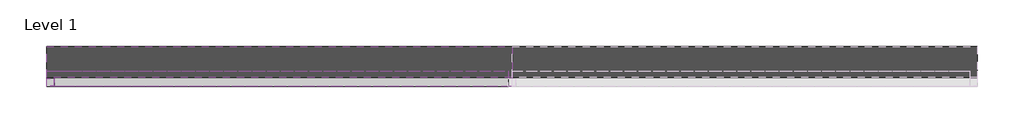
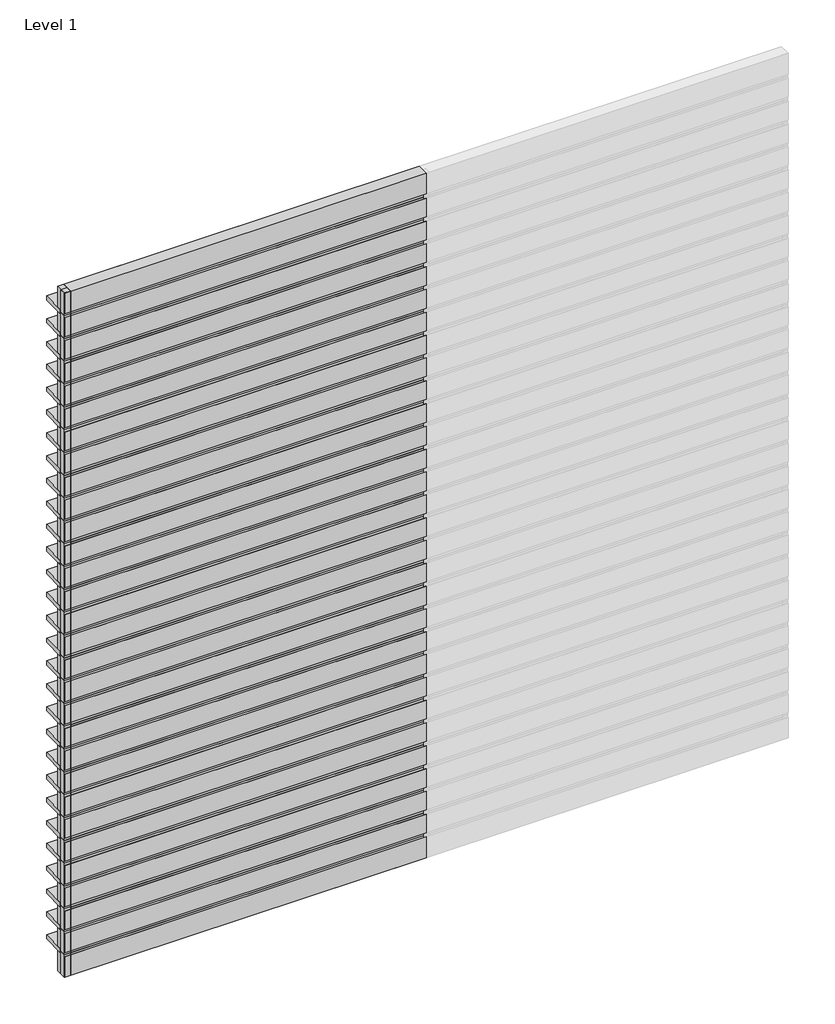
# One storey, part 1 of 2: 74 members, 60 plates.
"""IFC4 building model written with IfcOpenShell, lengths in millimetres."""

from ifc_helpers import new_model, si_unit, origin, place, context, project, spatial, transform, mapped, element, save
from components import rectangular_mullion_20bdfb12, rectangular_mullion_a06afc58, empty_system_panel_empty_0b604c90, empty_system_panel_empty_68612530, empty_system_panel_empty_34a2d59f

model = new_model("IFC4")

# Units and contexts
model_context = context("Model", 3, world=origin())
ifc_project = project(units=[si_unit("LENGTHUNIT", "METRE", prefix="MILLI")], contexts=[model_context])

# Site, building, storey
site = spatial("IfcSite", under=ifc_project)
building = spatial("IfcBuilding", under=site)
storey = spatial("IfcBuildingStorey", under=building, Name="Level 1", Elevation=0.0)

# Members
placement = place(None, origin())
rectangular_mullion_shape = rectangular_mullion_20bdfb12(model_context)
element("IfcMember", 1, ObjectType="Rectangular Mullion : RSen_21_CWM_blade - cubic 200 - 0°_gen_duco projects", at=placement, inside=storey, context=model_context, shape_type="MappedRepresentation", body=[
    mapped(rectangular_mullion_shape, transform((3000.0, 3000.0, 200.0), x_axis=(0.0, 0.0, 1.0), y_axis=(0.0, 1.0, 0.0), z_axis=(-1.0, 0.0, 0.0))),
])
element("IfcMember", 2, ObjectType="Rectangular Mullion : RSen_21_CWM_blade - cubic 200 - 0°_gen_duco projects", at=placement, inside=storey, context=model_context, shape_type="MappedRepresentation", body=[
    mapped(rectangular_mullion_shape, transform((3000.0, 3000.0, 400.0), x_axis=(0.0, 0.0, 1.0), y_axis=(0.0, 1.0, 0.0), z_axis=(-1.0, 0.0, 0.0))),
])
element("IfcMember", 3, ObjectType="Rectangular Mullion : RSen_21_CWM_blade - cubic 200 - 0°_gen_duco projects", at=placement, inside=storey, context=model_context, shape_type="MappedRepresentation", body=[
    mapped(rectangular_mullion_shape, transform((3000.0, 3000.0, 600.0), x_axis=(0.0, 0.0, 1.0), y_axis=(0.0, 1.0, 0.0), z_axis=(-1.0, 0.0, 0.0))),
])
element("IfcMember", 4, ObjectType="Rectangular Mullion : RSen_21_CWM_blade - cubic 200 - 0°_gen_duco projects", at=placement, inside=storey, context=model_context, shape_type="MappedRepresentation", body=[
    mapped(rectangular_mullion_shape, transform((3000.0, 3000.0, 800.0), x_axis=(0.0, 0.0, 1.0), y_axis=(0.0, 1.0, 0.0), z_axis=(-1.0, 0.0, 0.0))),
])
element("IfcMember", 5, ObjectType="Rectangular Mullion : RSen_21_CWM_blade - cubic 200 - 0°_gen_duco projects", at=placement, inside=storey, context=model_context, shape_type="MappedRepresentation", body=[
    mapped(rectangular_mullion_shape, transform((3000.0, 3000.0, 1000.0), x_axis=(0.0, 0.0, 1.0), y_axis=(0.0, 1.0, 0.0), z_axis=(-1.0, 0.0, 0.0))),
])
element("IfcMember", 6, ObjectType="Rectangular Mullion : RSen_21_CWM_blade - cubic 200 - 0°_gen_duco projects", at=placement, inside=storey, context=model_context, shape_type="MappedRepresentation", body=[
    mapped(rectangular_mullion_shape, transform((3000.0, 3000.0, 1200.0), x_axis=(0.0, 0.0, 1.0), y_axis=(0.0, 1.0, 0.0), z_axis=(-1.0, 0.0, 0.0))),
])
element("IfcMember", 7, ObjectType="Rectangular Mullion : RSen_21_CWM_blade - cubic 200 - 0°_gen_duco projects", at=placement, inside=storey, context=model_context, shape_type="MappedRepresentation", body=[
    mapped(rectangular_mullion_shape, transform((3000.0, 3000.0, 1400.0), x_axis=(0.0, 0.0, 1.0), y_axis=(0.0, 1.0, 0.0), z_axis=(-1.0, 0.0, 0.0))),
])
element("IfcMember", 8, ObjectType="Rectangular Mullion : RSen_21_CWM_blade - cubic 200 - 0°_gen_duco projects", at=placement, inside=storey, context=model_context, shape_type="MappedRepresentation", body=[
    mapped(rectangular_mullion_shape, transform((3000.0, 3000.0, 1600.0), x_axis=(0.0, 0.0, 1.0), y_axis=(0.0, 1.0, 0.0), z_axis=(-1.0, 0.0, 0.0))),
])
element("IfcMember", 9, ObjectType="Rectangular Mullion : RSen_21_CWM_blade - cubic 200 - 0°_gen_duco projects", at=placement, inside=storey, context=model_context, shape_type="MappedRepresentation", body=[
    mapped(rectangular_mullion_shape, transform((3000.0, 3000.0, 1800.0), x_axis=(0.0, 0.0, 1.0), y_axis=(0.0, 1.0, 0.0), z_axis=(-1.0, 0.0, 0.0))),
])
element("IfcMember", 10, ObjectType="Rectangular Mullion : RSen_21_CWM_blade - cubic 200 - 0°_gen_duco projects", at=placement, inside=storey, context=model_context, shape_type="MappedRepresentation", body=[
    mapped(rectangular_mullion_shape, transform((3000.0, 3000.0, 2000.0), x_axis=(0.0, 0.0, 1.0), y_axis=(0.0, 1.0, 0.0), z_axis=(-1.0, 0.0, 0.0))),
])
element("IfcMember", 11, ObjectType="Rectangular Mullion : RSen_21_CWM_blade - cubic 200 - 0°_gen_duco projects", at=placement, inside=storey, context=model_context, shape_type="MappedRepresentation", body=[
    mapped(rectangular_mullion_shape, transform((3000.0, 3000.0, 2200.0), x_axis=(0.0, 0.0, 1.0), y_axis=(0.0, 1.0, 0.0), z_axis=(-1.0, 0.0, 0.0))),
])
element("IfcMember", 12, ObjectType="Rectangular Mullion : RSen_21_CWM_blade - cubic 200 - 0°_gen_duco projects", at=placement, inside=storey, context=model_context, shape_type="MappedRepresentation", body=[
    mapped(rectangular_mullion_shape, transform((3000.0, 3000.0, 2400.0), x_axis=(0.0, 0.0, 1.0), y_axis=(0.0, 1.0, 0.0), z_axis=(-1.0, 0.0, 0.0))),
])
element("IfcMember", 13, ObjectType="Rectangular Mullion : RSen_21_CWM_blade - cubic 200 - 0°_gen_duco projects", at=placement, inside=storey, context=model_context, shape_type="MappedRepresentation", body=[
    mapped(rectangular_mullion_shape, transform((3000.0, 3000.0, 2600.0), x_axis=(0.0, 0.0, 1.0), y_axis=(0.0, 1.0, 0.0), z_axis=(-1.0, 0.0, 0.0))),
])
element("IfcMember", 14, ObjectType="Rectangular Mullion : RSen_21_CWM_blade - cubic 200 - 0°_gen_duco projects", at=placement, inside=storey, context=model_context, shape_type="MappedRepresentation", body=[
    mapped(rectangular_mullion_shape, transform((3000.0, 3000.0, 2800.0), x_axis=(0.0, 0.0, 1.0), y_axis=(0.0, 1.0, 0.0), z_axis=(-1.0, 0.0, 0.0))),
])
element("IfcMember", 15, ObjectType="Rectangular Mullion : RSen_21_CWM_blade - cubic 200 - 0°_gen_duco projects", at=placement, inside=storey, context=model_context, shape_type="MappedRepresentation", body=[
    mapped(rectangular_mullion_shape, transform((3000.0, 3000.0, 3000.0), x_axis=(0.0, 0.0, 1.0), y_axis=(0.0, 1.0, 0.0), z_axis=(-1.0, 0.0, 0.0))),
])
element("IfcMember", 16, ObjectType="Rectangular Mullion : RSen_21_CWM_blade - cubic 200 - 0°_gen_duco projects", at=placement, inside=storey, context=model_context, shape_type="MappedRepresentation", body=[
    mapped(rectangular_mullion_shape, transform((0.0, 3000.0, 200.0), x_axis=(0.0, 0.0, 1.0), y_axis=(0.0, 1.0, 0.0), z_axis=(-1.0, 0.0, 0.0))),
])
element("IfcMember", 17, ObjectType="Rectangular Mullion : RSen_21_CWM_blade - cubic 200 - 0°_gen_duco projects", at=placement, inside=storey, context=model_context, shape_type="MappedRepresentation", body=[
    mapped(rectangular_mullion_shape, transform((0.0, 3000.0, 400.0), x_axis=(0.0, 0.0, 1.0), y_axis=(0.0, 1.0, 0.0), z_axis=(-1.0, 0.0, 0.0))),
])
element("IfcMember", 18, ObjectType="Rectangular Mullion : RSen_21_CWM_blade - cubic 200 - 0°_gen_duco projects", at=placement, inside=storey, context=model_context, shape_type="MappedRepresentation", body=[
    mapped(rectangular_mullion_shape, transform((0.0, 3000.0, 600.0), x_axis=(0.0, 0.0, 1.0), y_axis=(0.0, 1.0, 0.0), z_axis=(-1.0, 0.0, 0.0))),
])
element("IfcMember", 19, ObjectType="Rectangular Mullion : RSen_21_CWM_blade - cubic 200 - 0°_gen_duco projects", at=placement, inside=storey, context=model_context, shape_type="MappedRepresentation", body=[
    mapped(rectangular_mullion_shape, transform((0.0, 3000.0, 800.0), x_axis=(0.0, 0.0, 1.0), y_axis=(0.0, 1.0, 0.0), z_axis=(-1.0, 0.0, 0.0))),
])
element("IfcMember", 20, ObjectType="Rectangular Mullion : RSen_21_CWM_blade - cubic 200 - 0°_gen_duco projects", at=placement, inside=storey, context=model_context, shape_type="MappedRepresentation", body=[
    mapped(rectangular_mullion_shape, transform((0.0, 3000.0, 1000.0), x_axis=(0.0, 0.0, 1.0), y_axis=(0.0, 1.0, 0.0), z_axis=(-1.0, 0.0, 0.0))),
])
element("IfcMember", 21, ObjectType="Rectangular Mullion : RSen_21_CWM_blade - cubic 200 - 0°_gen_duco projects", at=placement, inside=storey, context=model_context, shape_type="MappedRepresentation", body=[
    mapped(rectangular_mullion_shape, transform((0.0, 3000.0, 1200.0), x_axis=(0.0, 0.0, 1.0), y_axis=(0.0, 1.0, 0.0), z_axis=(-1.0, 0.0, 0.0))),
])
element("IfcMember", 22, ObjectType="Rectangular Mullion : RSen_21_CWM_blade - cubic 200 - 0°_gen_duco projects", at=placement, inside=storey, context=model_context, shape_type="MappedRepresentation", body=[
    mapped(rectangular_mullion_shape, transform((0.0, 3000.0, 1400.0), x_axis=(0.0, 0.0, 1.0), y_axis=(0.0, 1.0, 0.0), z_axis=(-1.0, 0.0, 0.0))),
])
element("IfcMember", 23, ObjectType="Rectangular Mullion : RSen_21_CWM_blade - cubic 200 - 0°_gen_duco projects", at=placement, inside=storey, context=model_context, shape_type="MappedRepresentation", body=[
    mapped(rectangular_mullion_shape, transform((0.0, 3000.0, 1600.0), x_axis=(0.0, 0.0, 1.0), y_axis=(0.0, 1.0, 0.0), z_axis=(-1.0, 0.0, 0.0))),
])
element("IfcMember", 24, ObjectType="Rectangular Mullion : RSen_21_CWM_blade - cubic 200 - 0°_gen_duco projects", at=placement, inside=storey, context=model_context, shape_type="MappedRepresentation", body=[
    mapped(rectangular_mullion_shape, transform((0.0, 3000.0, 1800.0), x_axis=(0.0, 0.0, 1.0), y_axis=(0.0, 1.0, 0.0), z_axis=(-1.0, 0.0, 0.0))),
])
element("IfcMember", 25, ObjectType="Rectangular Mullion : RSen_21_CWM_blade - cubic 200 - 0°_gen_duco projects", at=placement, inside=storey, context=model_context, shape_type="MappedRepresentation", body=[
    mapped(rectangular_mullion_shape, transform((0.0, 3000.0, 2000.0), x_axis=(0.0, 0.0, 1.0), y_axis=(0.0, 1.0, 0.0), z_axis=(-1.0, 0.0, 0.0))),
])
element("IfcMember", 26, ObjectType="Rectangular Mullion : RSen_21_CWM_blade - cubic 200 - 0°_gen_duco projects", at=placement, inside=storey, context=model_context, shape_type="MappedRepresentation", body=[
    mapped(rectangular_mullion_shape, transform((0.0, 3000.0, 2200.0), x_axis=(0.0, 0.0, 1.0), y_axis=(0.0, 1.0, 0.0), z_axis=(-1.0, 0.0, 0.0))),
])
element("IfcMember", 27, ObjectType="Rectangular Mullion : RSen_21_CWM_blade - cubic 200 - 0°_gen_duco projects", at=placement, inside=storey, context=model_context, shape_type="MappedRepresentation", body=[
    mapped(rectangular_mullion_shape, transform((0.0, 3000.0, 2400.0), x_axis=(0.0, 0.0, 1.0), y_axis=(0.0, 1.0, 0.0), z_axis=(-1.0, 0.0, 0.0))),
])
element("IfcMember", 28, ObjectType="Rectangular Mullion : RSen_21_CWM_blade - cubic 200 - 0°_gen_duco projects", at=placement, inside=storey, context=model_context, shape_type="MappedRepresentation", body=[
    mapped(rectangular_mullion_shape, transform((0.0, 3000.0, 2600.0), x_axis=(0.0, 0.0, 1.0), y_axis=(0.0, 1.0, 0.0), z_axis=(-1.0, 0.0, 0.0))),
])
element("IfcMember", 29, ObjectType="Rectangular Mullion : RSen_21_CWM_blade - cubic 200 - 0°_gen_duco projects", at=placement, inside=storey, context=model_context, shape_type="MappedRepresentation", body=[
    mapped(rectangular_mullion_shape, transform((0.0, 3000.0, 2800.0), x_axis=(0.0, 0.0, 1.0), y_axis=(0.0, 1.0, 0.0), z_axis=(-1.0, 0.0, 0.0))),
])
element("IfcMember", 30, ObjectType="Rectangular Mullion : RSen_21_CWM_blade - cubic 200 - 0°_gen_duco projects", at=placement, inside=storey, context=model_context, shape_type="MappedRepresentation", body=[
    mapped(rectangular_mullion_shape, transform((0.0, 3000.0, 3000.0), x_axis=(0.0, 0.0, 1.0), y_axis=(0.0, 1.0, 0.0), z_axis=(-1.0, 0.0, 0.0))),
])
element("IfcMember", 31, ObjectType="Rectangular Mullion : RSen_21_CWM_blade - cubic 200 - 0°_gen_duco projects", at=placement, inside=storey, context=model_context, shape_type="MappedRepresentation", body=[
    mapped(rectangular_mullion_shape, transform((0.0, 3000.0, 3200.0), x_axis=(0.0, 0.0, 1.0), y_axis=(0.0, 1.0, 0.0), z_axis=(-1.0, 0.0, 0.0))),
])
element("IfcMember", 32, ObjectType="Rectangular Mullion : RSen_21_CWM_blade - cubic 200 - 0°_gen_duco projects", at=placement, inside=storey, context=model_context, shape_type="MappedRepresentation", body=[
    mapped(rectangular_mullion_shape, transform((0.0, 3000.0, 3400.0), x_axis=(0.0, 0.0, 1.0), y_axis=(0.0, 1.0, 0.0), z_axis=(-1.0, 0.0, 0.0))),
])
element("IfcMember", 33, ObjectType="Rectangular Mullion : RSen_21_CWM_blade - cubic 200 - 0°_gen_duco projects", at=placement, inside=storey, context=model_context, shape_type="MappedRepresentation", body=[
    mapped(rectangular_mullion_shape, transform((0.0, 3000.0, 3600.0), x_axis=(0.0, 0.0, 1.0), y_axis=(0.0, 1.0, 0.0), z_axis=(-1.0, 0.0, 0.0))),
])
element("IfcMember", 34, ObjectType="Rectangular Mullion : RSen_21_CWM_blade - cubic 200 - 0°_gen_duco projects", at=placement, inside=storey, context=model_context, shape_type="MappedRepresentation", body=[
    mapped(rectangular_mullion_shape, transform((0.0, 3000.0, 3800.0), x_axis=(0.0, 0.0, 1.0), y_axis=(0.0, 1.0, 0.0), z_axis=(-1.0, 0.0, 0.0))),
])
element("IfcMember", 35, ObjectType="Rectangular Mullion : RSen_21_CWM_blade - cubic 200 - 0°_gen_duco projects", at=placement, inside=storey, context=model_context, shape_type="MappedRepresentation", body=[
    mapped(rectangular_mullion_shape, transform((0.0, 3000.0, 4000.0), x_axis=(0.0, 0.0, 1.0), y_axis=(0.0, 1.0, 0.0), z_axis=(-1.0, 0.0, 0.0))),
])
element("IfcMember", 36, ObjectType="Rectangular Mullion : RSen_21_CWM_blade - cubic 200 - 0°_gen_duco projects", at=placement, inside=storey, context=model_context, shape_type="MappedRepresentation", body=[
    mapped(rectangular_mullion_shape, transform((0.0, 3000.0, 4200.0), x_axis=(0.0, 0.0, 1.0), y_axis=(0.0, 1.0, 0.0), z_axis=(-1.0, 0.0, 0.0))),
])
element("IfcMember", 37, ObjectType="Rectangular Mullion : RSen_21_CWM_blade - cubic 200 - 0°_gen_duco projects", at=placement, inside=storey, context=model_context, shape_type="MappedRepresentation", body=[
    mapped(rectangular_mullion_shape, transform((0.0, 3000.0, 4400.0), x_axis=(0.0, 0.0, 1.0), y_axis=(0.0, 1.0, 0.0), z_axis=(-1.0, 0.0, 0.0))),
])
element("IfcMember", 38, ObjectType="Rectangular Mullion : RSen_21_CWM_blade - cubic 200 - 0°_gen_duco projects", at=placement, inside=storey, context=model_context, shape_type="MappedRepresentation", body=[
    mapped(rectangular_mullion_shape, transform((0.0, 3000.0, 4600.0), x_axis=(0.0, 0.0, 1.0), y_axis=(0.0, 1.0, 0.0), z_axis=(-1.0, 0.0, 0.0))),
])
element("IfcMember", 39, ObjectType="Rectangular Mullion : RSen_21_CWM_blade - cubic 200 - 0°_gen_duco projects", at=placement, inside=storey, context=model_context, shape_type="MappedRepresentation", body=[
    mapped(rectangular_mullion_shape, transform((0.0, 3000.0, 4800.0), x_axis=(0.0, 0.0, 1.0), y_axis=(0.0, 1.0, 0.0), z_axis=(-1.0, 0.0, 0.0))),
])
element("IfcMember", 40, ObjectType="Rectangular Mullion : RSen_21_CWM_blade - cubic 200 - 0°_gen_duco projects", at=placement, inside=storey, context=model_context, shape_type="MappedRepresentation", body=[
    mapped(rectangular_mullion_shape, transform((0.0, 3000.0, 5000.0), x_axis=(0.0, 0.0, 1.0), y_axis=(0.0, 1.0, 0.0), z_axis=(-1.0, 0.0, 0.0))),
])
element("IfcMember", 41, ObjectType="Rectangular Mullion : RSen_21_CWM_blade - cubic 200 - 0°_gen_duco projects", at=placement, inside=storey, context=model_context, shape_type="MappedRepresentation", body=[
    mapped(rectangular_mullion_shape, transform((0.0, 3000.0, 5200.0), x_axis=(0.0, 0.0, 1.0), y_axis=(0.0, 1.0, 0.0), z_axis=(-1.0, 0.0, 0.0))),
])
element("IfcMember", 42, ObjectType="Rectangular Mullion : RSen_21_CWM_blade - cubic 200 - 0°_gen_duco projects", at=placement, inside=storey, context=model_context, shape_type="MappedRepresentation", body=[
    mapped(rectangular_mullion_shape, transform((0.0, 3000.0, 5400.0), x_axis=(0.0, 0.0, 1.0), y_axis=(0.0, 1.0, 0.0), z_axis=(-1.0, 0.0, 0.0))),
])
element("IfcMember", 43, ObjectType="Rectangular Mullion : RSen_21_CWM_blade - cubic 200 - 0°_gen_duco projects", at=placement, inside=storey, context=model_context, shape_type="MappedRepresentation", body=[
    mapped(rectangular_mullion_shape, transform((0.0, 3000.0, 5600.0), x_axis=(0.0, 0.0, 1.0), y_axis=(0.0, 1.0, 0.0), z_axis=(-1.0, 0.0, 0.0))),
])
element("IfcMember", 44, ObjectType="Rectangular Mullion : RSen_21_CWM_blade - cubic 200 - 0°_gen_duco projects", at=placement, inside=storey, context=model_context, shape_type="MappedRepresentation", body=[
    mapped(rectangular_mullion_shape, transform((0.0, 3000.0, 5800.0), x_axis=(0.0, 0.0, 1.0), y_axis=(0.0, 1.0, 0.0), z_axis=(-1.0, 0.0, 0.0))),
])
rectangular_mullion_2_shape = rectangular_mullion_a06afc58(model_context)
element("IfcMember", 45, ObjectType="Rectangular Mullion : RSen_21_CWM_support profile 50x50 - left_gen_duco projects", at=placement, inside=storey, context=model_context, shape_type="MappedRepresentation", body=[
    mapped(rectangular_mullion_2_shape, transform((0.0, 3000.0, 0.0), x_axis=(-1.0, 0.0, 0.0), y_axis=(0.0, 1.0, 0.0), z_axis=(0.0, 0.0, -1.0))),
])
element("IfcMember", 46, ObjectType="Rectangular Mullion : RSen_21_CWM_support profile 50x50 - left_gen_duco projects", at=placement, inside=storey, context=model_context, shape_type="MappedRepresentation", body=[
    mapped(rectangular_mullion_2_shape, transform((0.0, 3000.0, 200.0), x_axis=(-1.0, 0.0, 0.0), y_axis=(0.0, 1.0, 0.0), z_axis=(0.0, 0.0, -1.0))),
])
element("IfcMember", 47, ObjectType="Rectangular Mullion : RSen_21_CWM_support profile 50x50 - left_gen_duco projects", at=placement, inside=storey, context=model_context, shape_type="MappedRepresentation", body=[
    mapped(rectangular_mullion_2_shape, transform((0.0, 3000.0, 400.0), x_axis=(-1.0, 0.0, 0.0), y_axis=(0.0, 1.0, 0.0), z_axis=(0.0, 0.0, -1.0))),
])
element("IfcMember", 48, ObjectType="Rectangular Mullion : RSen_21_CWM_support profile 50x50 - left_gen_duco projects", at=placement, inside=storey, context=model_context, shape_type="MappedRepresentation", body=[
    mapped(rectangular_mullion_2_shape, transform((0.0, 3000.0, 600.0), x_axis=(-1.0, 0.0, 0.0), y_axis=(0.0, 1.0, 0.0), z_axis=(0.0, 0.0, -1.0))),
])
element("IfcMember", 49, ObjectType="Rectangular Mullion : RSen_21_CWM_support profile 50x50 - left_gen_duco projects", at=placement, inside=storey, context=model_context, shape_type="MappedRepresentation", body=[
    mapped(rectangular_mullion_2_shape, transform((0.0, 3000.0, 800.0), x_axis=(-1.0, 0.0, 0.0), y_axis=(0.0, 1.0, 0.0), z_axis=(0.0, 0.0, -1.0))),
])
element("IfcMember", 50, ObjectType="Rectangular Mullion : RSen_21_CWM_support profile 50x50 - left_gen_duco projects", at=placement, inside=storey, context=model_context, shape_type="MappedRepresentation", body=[
    mapped(rectangular_mullion_2_shape, transform((0.0, 3000.0, 1000.0), x_axis=(-1.0, 0.0, 0.0), y_axis=(0.0, 1.0, 0.0), z_axis=(0.0, 0.0, -1.0))),
])
element("IfcMember", 51, ObjectType="Rectangular Mullion : RSen_21_CWM_support profile 50x50 - left_gen_duco projects", at=placement, inside=storey, context=model_context, shape_type="MappedRepresentation", body=[
    mapped(rectangular_mullion_2_shape, transform((0.0, 3000.0, 1200.0), x_axis=(-1.0, 0.0, 0.0), y_axis=(0.0, 1.0, 0.0), z_axis=(0.0, 0.0, -1.0))),
])
element("IfcMember", 52, ObjectType="Rectangular Mullion : RSen_21_CWM_support profile 50x50 - left_gen_duco projects", at=placement, inside=storey, context=model_context, shape_type="MappedRepresentation", body=[
    mapped(rectangular_mullion_2_shape, transform((0.0, 3000.0, 1400.0), x_axis=(-1.0, 0.0, 0.0), y_axis=(0.0, 1.0, 0.0), z_axis=(0.0, 0.0, -1.0))),
])
element("IfcMember", 53, ObjectType="Rectangular Mullion : RSen_21_CWM_support profile 50x50 - left_gen_duco projects", at=placement, inside=storey, context=model_context, shape_type="MappedRepresentation", body=[
    mapped(rectangular_mullion_2_shape, transform((0.0, 3000.0, 1600.0), x_axis=(-1.0, 0.0, 0.0), y_axis=(0.0, 1.0, 0.0), z_axis=(0.0, 0.0, -1.0))),
])
element("IfcMember", 54, ObjectType="Rectangular Mullion : RSen_21_CWM_support profile 50x50 - left_gen_duco projects", at=placement, inside=storey, context=model_context, shape_type="MappedRepresentation", body=[
    mapped(rectangular_mullion_2_shape, transform((0.0, 3000.0, 1800.0), x_axis=(-1.0, 0.0, 0.0), y_axis=(0.0, 1.0, 0.0), z_axis=(0.0, 0.0, -1.0))),
])
element("IfcMember", 55, ObjectType="Rectangular Mullion : RSen_21_CWM_support profile 50x50 - left_gen_duco projects", at=placement, inside=storey, context=model_context, shape_type="MappedRepresentation", body=[
    mapped(rectangular_mullion_2_shape, transform((0.0, 3000.0, 2000.0), x_axis=(-1.0, 0.0, 0.0), y_axis=(0.0, 1.0, 0.0), z_axis=(0.0, 0.0, -1.0))),
])
element("IfcMember", 56, ObjectType="Rectangular Mullion : RSen_21_CWM_support profile 50x50 - left_gen_duco projects", at=placement, inside=storey, context=model_context, shape_type="MappedRepresentation", body=[
    mapped(rectangular_mullion_2_shape, transform((0.0, 3000.0, 2200.0), x_axis=(-1.0, 0.0, 0.0), y_axis=(0.0, 1.0, 0.0), z_axis=(0.0, 0.0, -1.0))),
])
element("IfcMember", 57, ObjectType="Rectangular Mullion : RSen_21_CWM_support profile 50x50 - left_gen_duco projects", at=placement, inside=storey, context=model_context, shape_type="MappedRepresentation", body=[
    mapped(rectangular_mullion_2_shape, transform((0.0, 3000.0, 2400.0), x_axis=(-1.0, 0.0, 0.0), y_axis=(0.0, 1.0, 0.0), z_axis=(0.0, 0.0, -1.0))),
])
element("IfcMember", 58, ObjectType="Rectangular Mullion : RSen_21_CWM_support profile 50x50 - left_gen_duco projects", at=placement, inside=storey, context=model_context, shape_type="MappedRepresentation", body=[
    mapped(rectangular_mullion_2_shape, transform((0.0, 3000.0, 2600.0), x_axis=(-1.0, 0.0, 0.0), y_axis=(0.0, 1.0, 0.0), z_axis=(0.0, 0.0, -1.0))),
])
element("IfcMember", 59, ObjectType="Rectangular Mullion : RSen_21_CWM_support profile 50x50 - left_gen_duco projects", at=placement, inside=storey, context=model_context, shape_type="MappedRepresentation", body=[
    mapped(rectangular_mullion_2_shape, transform((0.0, 3000.0, 2800.0), x_axis=(-1.0, 0.0, 0.0), y_axis=(0.0, 1.0, 0.0), z_axis=(0.0, 0.0, -1.0))),
])
element("IfcMember", 60, ObjectType="Rectangular Mullion : RSen_21_CWM_support profile 50x50 - left_gen_duco projects", at=placement, inside=storey, context=model_context, shape_type="MappedRepresentation", body=[
    mapped(rectangular_mullion_2_shape, transform((0.0, 3000.0, 3000.0), x_axis=(-1.0, 0.0, 0.0), y_axis=(0.0, 1.0, 0.0), z_axis=(0.0, 0.0, -1.0))),
])
element("IfcMember", 61, ObjectType="Rectangular Mullion : RSen_21_CWM_support profile 50x50 - left_gen_duco projects", at=placement, inside=storey, context=model_context, shape_type="MappedRepresentation", body=[
    mapped(rectangular_mullion_2_shape, transform((0.0, 3000.0, 3200.0), x_axis=(-1.0, 0.0, 0.0), y_axis=(0.0, 1.0, 0.0), z_axis=(0.0, 0.0, -1.0))),
])
element("IfcMember", 62, ObjectType="Rectangular Mullion : RSen_21_CWM_support profile 50x50 - left_gen_duco projects", at=placement, inside=storey, context=model_context, shape_type="MappedRepresentation", body=[
    mapped(rectangular_mullion_2_shape, transform((0.0, 3000.0, 3400.0), x_axis=(-1.0, 0.0, 0.0), y_axis=(0.0, 1.0, 0.0), z_axis=(0.0, 0.0, -1.0))),
])
element("IfcMember", 63, ObjectType="Rectangular Mullion : RSen_21_CWM_support profile 50x50 - left_gen_duco projects", at=placement, inside=storey, context=model_context, shape_type="MappedRepresentation", body=[
    mapped(rectangular_mullion_2_shape, transform((0.0, 3000.0, 3600.0), x_axis=(-1.0, 0.0, 0.0), y_axis=(0.0, 1.0, 0.0), z_axis=(0.0, 0.0, -1.0))),
])
element("IfcMember", 64, ObjectType="Rectangular Mullion : RSen_21_CWM_support profile 50x50 - left_gen_duco projects", at=placement, inside=storey, context=model_context, shape_type="MappedRepresentation", body=[
    mapped(rectangular_mullion_2_shape, transform((0.0, 3000.0, 3800.0), x_axis=(-1.0, 0.0, 0.0), y_axis=(0.0, 1.0, 0.0), z_axis=(0.0, 0.0, -1.0))),
])
element("IfcMember", 65, ObjectType="Rectangular Mullion : RSen_21_CWM_support profile 50x50 - left_gen_duco projects", at=placement, inside=storey, context=model_context, shape_type="MappedRepresentation", body=[
    mapped(rectangular_mullion_2_shape, transform((0.0, 3000.0, 4000.0), x_axis=(-1.0, 0.0, 0.0), y_axis=(0.0, 1.0, 0.0), z_axis=(0.0, 0.0, -1.0))),
])
element("IfcMember", 66, ObjectType="Rectangular Mullion : RSen_21_CWM_support profile 50x50 - left_gen_duco projects", at=placement, inside=storey, context=model_context, shape_type="MappedRepresentation", body=[
    mapped(rectangular_mullion_2_shape, transform((0.0, 3000.0, 4200.0), x_axis=(-1.0, 0.0, 0.0), y_axis=(0.0, 1.0, 0.0), z_axis=(0.0, 0.0, -1.0))),
])
element("IfcMember", 67, ObjectType="Rectangular Mullion : RSen_21_CWM_support profile 50x50 - left_gen_duco projects", at=placement, inside=storey, context=model_context, shape_type="MappedRepresentation", body=[
    mapped(rectangular_mullion_2_shape, transform((0.0, 3000.0, 4400.0), x_axis=(-1.0, 0.0, 0.0), y_axis=(0.0, 1.0, 0.0), z_axis=(0.0, 0.0, -1.0))),
])
element("IfcMember", 68, ObjectType="Rectangular Mullion : RSen_21_CWM_support profile 50x50 - left_gen_duco projects", at=placement, inside=storey, context=model_context, shape_type="MappedRepresentation", body=[
    mapped(rectangular_mullion_2_shape, transform((0.0, 3000.0, 4600.0), x_axis=(-1.0, 0.0, 0.0), y_axis=(0.0, 1.0, 0.0), z_axis=(0.0, 0.0, -1.0))),
])
element("IfcMember", 69, ObjectType="Rectangular Mullion : RSen_21_CWM_support profile 50x50 - left_gen_duco projects", at=placement, inside=storey, context=model_context, shape_type="MappedRepresentation", body=[
    mapped(rectangular_mullion_2_shape, transform((0.0, 3000.0, 4800.0), x_axis=(-1.0, 0.0, 0.0), y_axis=(0.0, 1.0, 0.0), z_axis=(0.0, 0.0, -1.0))),
])
element("IfcMember", 70, ObjectType="Rectangular Mullion : RSen_21_CWM_support profile 50x50 - left_gen_duco projects", at=placement, inside=storey, context=model_context, shape_type="MappedRepresentation", body=[
    mapped(rectangular_mullion_2_shape, transform((0.0, 3000.0, 5000.0), x_axis=(-1.0, 0.0, 0.0), y_axis=(0.0, 1.0, 0.0), z_axis=(0.0, 0.0, -1.0))),
])
element("IfcMember", 71, ObjectType="Rectangular Mullion : RSen_21_CWM_support profile 50x50 - left_gen_duco projects", at=placement, inside=storey, context=model_context, shape_type="MappedRepresentation", body=[
    mapped(rectangular_mullion_2_shape, transform((0.0, 3000.0, 5200.0), x_axis=(-1.0, 0.0, 0.0), y_axis=(0.0, 1.0, 0.0), z_axis=(0.0, 0.0, -1.0))),
])
element("IfcMember", 72, ObjectType="Rectangular Mullion : RSen_21_CWM_support profile 50x50 - left_gen_duco projects", at=placement, inside=storey, context=model_context, shape_type="MappedRepresentation", body=[
    mapped(rectangular_mullion_2_shape, transform((0.0, 3000.0, 5400.0), x_axis=(-1.0, 0.0, 0.0), y_axis=(0.0, 1.0, 0.0), z_axis=(0.0, 0.0, -1.0))),
])
element("IfcMember", 73, ObjectType="Rectangular Mullion : RSen_21_CWM_support profile 50x50 - left_gen_duco projects", at=placement, inside=storey, context=model_context, shape_type="MappedRepresentation", body=[
    mapped(rectangular_mullion_2_shape, transform((0.0, 3000.0, 5600.0), x_axis=(-1.0, 0.0, 0.0), y_axis=(0.0, 1.0, 0.0), z_axis=(0.0, 0.0, -1.0))),
])
element("IfcMember", 74, ObjectType="Rectangular Mullion : RSen_21_CWM_support profile 50x50 - left_gen_duco projects", at=placement, inside=storey, context=model_context, shape_type="MappedRepresentation", body=[
    mapped(rectangular_mullion_2_shape, transform((0.0, 3000.0, 5800.0), x_axis=(-1.0, 0.0, 0.0), y_axis=(0.0, 1.0, 0.0), z_axis=(0.0, 0.0, -1.0))),
])

# Plates
empty_system_panel_empty_shape = empty_system_panel_empty_0b604c90(model_context)
element("IfcPlate", 75, ObjectType="Empty System Panel : Empty", at=placement, inside=storey, context=model_context, shape_type="MappedRepresentation", body=[
    mapped(empty_system_panel_empty_shape, transform((1500.0, 3000.0, 0.0), x_axis=(-1.0, 0.0, 0.0), y_axis=(0.0, -1.0, 0.0), z_axis=(0.0, 0.0, 1.0))),
])
element("IfcPlate", 76, ObjectType="Empty System Panel : Empty", at=placement, inside=storey, context=model_context, shape_type="MappedRepresentation", body=[
    mapped(empty_system_panel_empty_shape, transform((1500.0, 3000.0, 5818.5), x_axis=(-1.0, 0.0, 0.0), y_axis=(0.0, -1.0, 0.0), z_axis=(0.0, 0.0, 1.0))),
])
empty_system_panel_empty_2_shape = empty_system_panel_empty_68612530(model_context)
element("IfcPlate", 77, ObjectType="Empty System Panel : Empty", at=placement, inside=storey, context=model_context, shape_type="MappedRepresentation", body=[
    mapped(empty_system_panel_empty_2_shape, transform((1500.0, 3000.0, 218.5), x_axis=(-1.0, 0.0, 0.0), y_axis=(0.0, -1.0, 0.0), z_axis=(0.0, 0.0, 1.0))),
])
element("IfcPlate", 78, ObjectType="Empty System Panel : Empty", at=placement, inside=storey, context=model_context, shape_type="MappedRepresentation", body=[
    mapped(empty_system_panel_empty_2_shape, transform((1500.0, 3000.0, 418.5), x_axis=(-1.0, 0.0, 0.0), y_axis=(0.0, -1.0, 0.0), z_axis=(0.0, 0.0, 1.0))),
])
element("IfcPlate", 79, ObjectType="Empty System Panel : Empty", at=placement, inside=storey, context=model_context, shape_type="MappedRepresentation", body=[
    mapped(empty_system_panel_empty_2_shape, transform((1500.0, 3000.0, 618.5), x_axis=(-1.0, 0.0, 0.0), y_axis=(0.0, -1.0, 0.0), z_axis=(0.0, 0.0, 1.0))),
])
element("IfcPlate", 80, ObjectType="Empty System Panel : Empty", at=placement, inside=storey, context=model_context, shape_type="MappedRepresentation", body=[
    mapped(empty_system_panel_empty_2_shape, transform((1500.0, 3000.0, 818.5), x_axis=(-1.0, 0.0, 0.0), y_axis=(0.0, -1.0, 0.0), z_axis=(0.0, 0.0, 1.0))),
])
element("IfcPlate", 81, ObjectType="Empty System Panel : Empty", at=placement, inside=storey, context=model_context, shape_type="MappedRepresentation", body=[
    mapped(empty_system_panel_empty_2_shape, transform((1500.0, 3000.0, 1018.5), x_axis=(-1.0, 0.0, 0.0), y_axis=(0.0, -1.0, 0.0), z_axis=(0.0, 0.0, 1.0))),
])
element("IfcPlate", 82, ObjectType="Empty System Panel : Empty", at=placement, inside=storey, context=model_context, shape_type="MappedRepresentation", body=[
    mapped(empty_system_panel_empty_2_shape, transform((1500.0, 3000.0, 1218.5), x_axis=(-1.0, 0.0, 0.0), y_axis=(0.0, -1.0, 0.0), z_axis=(0.0, 0.0, 1.0))),
])
element("IfcPlate", 83, ObjectType="Empty System Panel : Empty", at=placement, inside=storey, context=model_context, shape_type="MappedRepresentation", body=[
    mapped(empty_system_panel_empty_2_shape, transform((1500.0, 3000.0, 1418.5), x_axis=(-1.0, 0.0, 0.0), y_axis=(0.0, -1.0, 0.0), z_axis=(0.0, 0.0, 1.0))),
])
element("IfcPlate", 84, ObjectType="Empty System Panel : Empty", at=placement, inside=storey, context=model_context, shape_type="MappedRepresentation", body=[
    mapped(empty_system_panel_empty_2_shape, transform((1500.0, 3000.0, 1618.5), x_axis=(-1.0, 0.0, 0.0), y_axis=(0.0, -1.0, 0.0), z_axis=(0.0, 0.0, 1.0))),
])
element("IfcPlate", 85, ObjectType="Empty System Panel : Empty", at=placement, inside=storey, context=model_context, shape_type="MappedRepresentation", body=[
    mapped(empty_system_panel_empty_2_shape, transform((1500.0, 3000.0, 1818.5), x_axis=(-1.0, 0.0, 0.0), y_axis=(0.0, -1.0, 0.0), z_axis=(0.0, 0.0, 1.0))),
])
element("IfcPlate", 86, ObjectType="Empty System Panel : Empty", at=placement, inside=storey, context=model_context, shape_type="MappedRepresentation", body=[
    mapped(empty_system_panel_empty_2_shape, transform((1500.0, 3000.0, 2018.5), x_axis=(-1.0, 0.0, 0.0), y_axis=(0.0, -1.0, 0.0), z_axis=(0.0, 0.0, 1.0))),
])
element("IfcPlate", 87, ObjectType="Empty System Panel : Empty", at=placement, inside=storey, context=model_context, shape_type="MappedRepresentation", body=[
    mapped(empty_system_panel_empty_2_shape, transform((1500.0, 3000.0, 2218.5), x_axis=(-1.0, 0.0, 0.0), y_axis=(0.0, -1.0, 0.0), z_axis=(0.0, 0.0, 1.0))),
])
element("IfcPlate", 88, ObjectType="Empty System Panel : Empty", at=placement, inside=storey, context=model_context, shape_type="MappedRepresentation", body=[
    mapped(empty_system_panel_empty_2_shape, transform((1500.0, 3000.0, 2418.5), x_axis=(-1.0, 0.0, 0.0), y_axis=(0.0, -1.0, 0.0), z_axis=(0.0, 0.0, 1.0))),
])
element("IfcPlate", 89, ObjectType="Empty System Panel : Empty", at=placement, inside=storey, context=model_context, shape_type="MappedRepresentation", body=[
    mapped(empty_system_panel_empty_2_shape, transform((1500.0, 3000.0, 2618.5), x_axis=(-1.0, 0.0, 0.0), y_axis=(0.0, -1.0, 0.0), z_axis=(0.0, 0.0, 1.0))),
])
element("IfcPlate", 90, ObjectType="Empty System Panel : Empty", at=placement, inside=storey, context=model_context, shape_type="MappedRepresentation", body=[
    mapped(empty_system_panel_empty_2_shape, transform((1500.0, 3000.0, 2818.5), x_axis=(-1.0, 0.0, 0.0), y_axis=(0.0, -1.0, 0.0), z_axis=(0.0, 0.0, 1.0))),
])
element("IfcPlate", 91, ObjectType="Empty System Panel : Empty", at=placement, inside=storey, context=model_context, shape_type="MappedRepresentation", body=[
    mapped(empty_system_panel_empty_2_shape, transform((1500.0, 3000.0, 3018.5), x_axis=(-1.0, 0.0, 0.0), y_axis=(0.0, -1.0, 0.0), z_axis=(0.0, 0.0, 1.0))),
])
element("IfcPlate", 92, ObjectType="Empty System Panel : Empty", at=placement, inside=storey, context=model_context, shape_type="MappedRepresentation", body=[
    mapped(empty_system_panel_empty_2_shape, transform((1500.0, 3000.0, 3218.5), x_axis=(-1.0, 0.0, 0.0), y_axis=(0.0, -1.0, 0.0), z_axis=(0.0, 0.0, 1.0))),
])
element("IfcPlate", 93, ObjectType="Empty System Panel : Empty", at=placement, inside=storey, context=model_context, shape_type="MappedRepresentation", body=[
    mapped(empty_system_panel_empty_2_shape, transform((1500.0, 3000.0, 3418.5), x_axis=(-1.0, 0.0, 0.0), y_axis=(0.0, -1.0, 0.0), z_axis=(0.0, 0.0, 1.0))),
])
element("IfcPlate", 94, ObjectType="Empty System Panel : Empty", at=placement, inside=storey, context=model_context, shape_type="MappedRepresentation", body=[
    mapped(empty_system_panel_empty_2_shape, transform((1500.0, 3000.0, 3618.5), x_axis=(-1.0, 0.0, 0.0), y_axis=(0.0, -1.0, 0.0), z_axis=(0.0, 0.0, 1.0))),
])
element("IfcPlate", 95, ObjectType="Empty System Panel : Empty", at=placement, inside=storey, context=model_context, shape_type="MappedRepresentation", body=[
    mapped(empty_system_panel_empty_2_shape, transform((1500.0, 3000.0, 3818.5), x_axis=(-1.0, 0.0, 0.0), y_axis=(0.0, -1.0, 0.0), z_axis=(0.0, 0.0, 1.0))),
])
element("IfcPlate", 96, ObjectType="Empty System Panel : Empty", at=placement, inside=storey, context=model_context, shape_type="MappedRepresentation", body=[
    mapped(empty_system_panel_empty_2_shape, transform((1500.0, 3000.0, 4018.5), x_axis=(-1.0, 0.0, 0.0), y_axis=(0.0, -1.0, 0.0), z_axis=(0.0, 0.0, 1.0))),
])
element("IfcPlate", 97, ObjectType="Empty System Panel : Empty", at=placement, inside=storey, context=model_context, shape_type="MappedRepresentation", body=[
    mapped(empty_system_panel_empty_2_shape, transform((1500.0, 3000.0, 4218.5), x_axis=(-1.0, 0.0, 0.0), y_axis=(0.0, -1.0, 0.0), z_axis=(0.0, 0.0, 1.0))),
])
element("IfcPlate", 98, ObjectType="Empty System Panel : Empty", at=placement, inside=storey, context=model_context, shape_type="MappedRepresentation", body=[
    mapped(empty_system_panel_empty_2_shape, transform((1500.0, 3000.0, 4418.5), x_axis=(-1.0, 0.0, 0.0), y_axis=(0.0, -1.0, 0.0), z_axis=(0.0, 0.0, 1.0))),
])
element("IfcPlate", 99, ObjectType="Empty System Panel : Empty", at=placement, inside=storey, context=model_context, shape_type="MappedRepresentation", body=[
    mapped(empty_system_panel_empty_2_shape, transform((1500.0, 3000.0, 4618.5), x_axis=(-1.0, 0.0, 0.0), y_axis=(0.0, -1.0, 0.0), z_axis=(0.0, 0.0, 1.0))),
])
element("IfcPlate", 100, ObjectType="Empty System Panel : Empty", at=placement, inside=storey, context=model_context, shape_type="MappedRepresentation", body=[
    mapped(empty_system_panel_empty_2_shape, transform((1500.0, 3000.0, 4818.5), x_axis=(-1.0, 0.0, 0.0), y_axis=(0.0, -1.0, 0.0), z_axis=(0.0, 0.0, 1.0))),
])
element("IfcPlate", 101, ObjectType="Empty System Panel : Empty", at=placement, inside=storey, context=model_context, shape_type="MappedRepresentation", body=[
    mapped(empty_system_panel_empty_2_shape, transform((1500.0, 3000.0, 5018.5), x_axis=(-1.0, 0.0, 0.0), y_axis=(0.0, -1.0, 0.0), z_axis=(0.0, 0.0, 1.0))),
])
element("IfcPlate", 102, ObjectType="Empty System Panel : Empty", at=placement, inside=storey, context=model_context, shape_type="MappedRepresentation", body=[
    mapped(empty_system_panel_empty_2_shape, transform((1500.0, 3000.0, 5218.5), x_axis=(-1.0, 0.0, 0.0), y_axis=(0.0, -1.0, 0.0), z_axis=(0.0, 0.0, 1.0))),
])
element("IfcPlate", 103, ObjectType="Empty System Panel : Empty", at=placement, inside=storey, context=model_context, shape_type="MappedRepresentation", body=[
    mapped(empty_system_panel_empty_2_shape, transform((1500.0, 3000.0, 5418.5), x_axis=(-1.0, 0.0, 0.0), y_axis=(0.0, -1.0, 0.0), z_axis=(0.0, 0.0, 1.0))),
])
element("IfcPlate", 104, ObjectType="Empty System Panel : Empty", at=placement, inside=storey, context=model_context, shape_type="MappedRepresentation", body=[
    mapped(empty_system_panel_empty_2_shape, transform((1500.0, 3000.0, 5618.5), x_axis=(-1.0, 0.0, 0.0), y_axis=(0.0, -1.0, 0.0), z_axis=(0.0, 0.0, 1.0))),
])
empty_system_panel_empty_3_shape = empty_system_panel_empty_34a2d59f(model_context)
element("IfcPlate", 105, ObjectType="Empty System Panel : Empty", at=placement, inside=storey, context=model_context, shape_type="MappedRepresentation", body=[
    mapped(empty_system_panel_empty_3_shape, transform((1512.5, 3000.0, 0.0), x_axis=(-1.0, 0.0, 0.0), y_axis=(0.0, -1.0, 0.0), z_axis=(0.0, 0.0, 1.0))),
])
element("IfcPlate", 106, ObjectType="Empty System Panel : Empty", at=placement, inside=storey, context=model_context, shape_type="MappedRepresentation", body=[
    mapped(empty_system_panel_empty_3_shape, transform((1512.5, 3000.0, 200.0), x_axis=(-1.0, 0.0, 0.0), y_axis=(0.0, -1.0, 0.0), z_axis=(0.0, 0.0, 1.0))),
])
element("IfcPlate", 107, ObjectType="Empty System Panel : Empty", at=placement, inside=storey, context=model_context, shape_type="MappedRepresentation", body=[
    mapped(empty_system_panel_empty_3_shape, transform((1512.5, 3000.0, 400.0), x_axis=(-1.0, 0.0, 0.0), y_axis=(0.0, -1.0, 0.0), z_axis=(0.0, 0.0, 1.0))),
])
element("IfcPlate", 108, ObjectType="Empty System Panel : Empty", at=placement, inside=storey, context=model_context, shape_type="MappedRepresentation", body=[
    mapped(empty_system_panel_empty_3_shape, transform((1512.5, 3000.0, 600.0), x_axis=(-1.0, 0.0, 0.0), y_axis=(0.0, -1.0, 0.0), z_axis=(0.0, 0.0, 1.0))),
])
element("IfcPlate", 109, ObjectType="Empty System Panel : Empty", at=placement, inside=storey, context=model_context, shape_type="MappedRepresentation", body=[
    mapped(empty_system_panel_empty_3_shape, transform((1512.5, 3000.0, 800.0), x_axis=(-1.0, 0.0, 0.0), y_axis=(0.0, -1.0, 0.0), z_axis=(0.0, 0.0, 1.0))),
])
element("IfcPlate", 110, ObjectType="Empty System Panel : Empty", at=placement, inside=storey, context=model_context, shape_type="MappedRepresentation", body=[
    mapped(empty_system_panel_empty_3_shape, transform((1512.5, 3000.0, 1000.0), x_axis=(-1.0, 0.0, 0.0), y_axis=(0.0, -1.0, 0.0), z_axis=(0.0, 0.0, 1.0))),
])
element("IfcPlate", 111, ObjectType="Empty System Panel : Empty", at=placement, inside=storey, context=model_context, shape_type="MappedRepresentation", body=[
    mapped(empty_system_panel_empty_3_shape, transform((1512.5, 3000.0, 1200.0), x_axis=(-1.0, 0.0, 0.0), y_axis=(0.0, -1.0, 0.0), z_axis=(0.0, 0.0, 1.0))),
])
element("IfcPlate", 112, ObjectType="Empty System Panel : Empty", at=placement, inside=storey, context=model_context, shape_type="MappedRepresentation", body=[
    mapped(empty_system_panel_empty_3_shape, transform((1512.5, 3000.0, 1400.0), x_axis=(-1.0, 0.0, 0.0), y_axis=(0.0, -1.0, 0.0), z_axis=(0.0, 0.0, 1.0))),
])
element("IfcPlate", 113, ObjectType="Empty System Panel : Empty", at=placement, inside=storey, context=model_context, shape_type="MappedRepresentation", body=[
    mapped(empty_system_panel_empty_3_shape, transform((1512.5, 3000.0, 1600.0), x_axis=(-1.0, 0.0, 0.0), y_axis=(0.0, -1.0, 0.0), z_axis=(0.0, 0.0, 1.0))),
])
element("IfcPlate", 114, ObjectType="Empty System Panel : Empty", at=placement, inside=storey, context=model_context, shape_type="MappedRepresentation", body=[
    mapped(empty_system_panel_empty_3_shape, transform((1512.5, 3000.0, 1800.0), x_axis=(-1.0, 0.0, 0.0), y_axis=(0.0, -1.0, 0.0), z_axis=(0.0, 0.0, 1.0))),
])
element("IfcPlate", 115, ObjectType="Empty System Panel : Empty", at=placement, inside=storey, context=model_context, shape_type="MappedRepresentation", body=[
    mapped(empty_system_panel_empty_3_shape, transform((1512.5, 3000.0, 2000.0), x_axis=(-1.0, 0.0, 0.0), y_axis=(0.0, -1.0, 0.0), z_axis=(0.0, 0.0, 1.0))),
])
element("IfcPlate", 116, ObjectType="Empty System Panel : Empty", at=placement, inside=storey, context=model_context, shape_type="MappedRepresentation", body=[
    mapped(empty_system_panel_empty_3_shape, transform((1512.5, 3000.0, 2200.0), x_axis=(-1.0, 0.0, 0.0), y_axis=(0.0, -1.0, 0.0), z_axis=(0.0, 0.0, 1.0))),
])
element("IfcPlate", 117, ObjectType="Empty System Panel : Empty", at=placement, inside=storey, context=model_context, shape_type="MappedRepresentation", body=[
    mapped(empty_system_panel_empty_3_shape, transform((1512.5, 3000.0, 2400.0), x_axis=(-1.0, 0.0, 0.0), y_axis=(0.0, -1.0, 0.0), z_axis=(0.0, 0.0, 1.0))),
])
element("IfcPlate", 118, ObjectType="Empty System Panel : Empty", at=placement, inside=storey, context=model_context, shape_type="MappedRepresentation", body=[
    mapped(empty_system_panel_empty_3_shape, transform((1512.5, 3000.0, 2600.0), x_axis=(-1.0, 0.0, 0.0), y_axis=(0.0, -1.0, 0.0), z_axis=(0.0, 0.0, 1.0))),
])
element("IfcPlate", 119, ObjectType="Empty System Panel : Empty", at=placement, inside=storey, context=model_context, shape_type="MappedRepresentation", body=[
    mapped(empty_system_panel_empty_3_shape, transform((1512.5, 3000.0, 2800.0), x_axis=(-1.0, 0.0, 0.0), y_axis=(0.0, -1.0, 0.0), z_axis=(0.0, 0.0, 1.0))),
])
element("IfcPlate", 120, ObjectType="Empty System Panel : Empty", at=placement, inside=storey, context=model_context, shape_type="MappedRepresentation", body=[
    mapped(empty_system_panel_empty_3_shape, transform((1512.5, 3000.0, 3000.0), x_axis=(-1.0, 0.0, 0.0), y_axis=(0.0, -1.0, 0.0), z_axis=(0.0, 0.0, 1.0))),
])
element("IfcPlate", 121, ObjectType="Empty System Panel : Empty", at=placement, inside=storey, context=model_context, shape_type="MappedRepresentation", body=[
    mapped(empty_system_panel_empty_3_shape, transform((1512.5, 3000.0, 3200.0), x_axis=(-1.0, 0.0, 0.0), y_axis=(0.0, -1.0, 0.0), z_axis=(0.0, 0.0, 1.0))),
])
element("IfcPlate", 122, ObjectType="Empty System Panel : Empty", at=placement, inside=storey, context=model_context, shape_type="MappedRepresentation", body=[
    mapped(empty_system_panel_empty_3_shape, transform((1512.5, 3000.0, 3400.0), x_axis=(-1.0, 0.0, 0.0), y_axis=(0.0, -1.0, 0.0), z_axis=(0.0, 0.0, 1.0))),
])
element("IfcPlate", 123, ObjectType="Empty System Panel : Empty", at=placement, inside=storey, context=model_context, shape_type="MappedRepresentation", body=[
    mapped(empty_system_panel_empty_3_shape, transform((1512.5, 3000.0, 3600.0), x_axis=(-1.0, 0.0, 0.0), y_axis=(0.0, -1.0, 0.0), z_axis=(0.0, 0.0, 1.0))),
])
element("IfcPlate", 124, ObjectType="Empty System Panel : Empty", at=placement, inside=storey, context=model_context, shape_type="MappedRepresentation", body=[
    mapped(empty_system_panel_empty_3_shape, transform((1512.5, 3000.0, 3800.0), x_axis=(-1.0, 0.0, 0.0), y_axis=(0.0, -1.0, 0.0), z_axis=(0.0, 0.0, 1.0))),
])
element("IfcPlate", 125, ObjectType="Empty System Panel : Empty", at=placement, inside=storey, context=model_context, shape_type="MappedRepresentation", body=[
    mapped(empty_system_panel_empty_3_shape, transform((1512.5, 3000.0, 4000.0), x_axis=(-1.0, 0.0, 0.0), y_axis=(0.0, -1.0, 0.0), z_axis=(0.0, 0.0, 1.0))),
])
element("IfcPlate", 126, ObjectType="Empty System Panel : Empty", at=placement, inside=storey, context=model_context, shape_type="MappedRepresentation", body=[
    mapped(empty_system_panel_empty_3_shape, transform((1512.5, 3000.0, 4200.0), x_axis=(-1.0, 0.0, 0.0), y_axis=(0.0, -1.0, 0.0), z_axis=(0.0, 0.0, 1.0))),
])
element("IfcPlate", 127, ObjectType="Empty System Panel : Empty", at=placement, inside=storey, context=model_context, shape_type="MappedRepresentation", body=[
    mapped(empty_system_panel_empty_3_shape, transform((1512.5, 3000.0, 4400.0), x_axis=(-1.0, 0.0, 0.0), y_axis=(0.0, -1.0, 0.0), z_axis=(0.0, 0.0, 1.0))),
])
element("IfcPlate", 128, ObjectType="Empty System Panel : Empty", at=placement, inside=storey, context=model_context, shape_type="MappedRepresentation", body=[
    mapped(empty_system_panel_empty_3_shape, transform((1512.5, 3000.0, 4600.0), x_axis=(-1.0, 0.0, 0.0), y_axis=(0.0, -1.0, 0.0), z_axis=(0.0, 0.0, 1.0))),
])
element("IfcPlate", 129, ObjectType="Empty System Panel : Empty", at=placement, inside=storey, context=model_context, shape_type="MappedRepresentation", body=[
    mapped(empty_system_panel_empty_3_shape, transform((1512.5, 3000.0, 4800.0), x_axis=(-1.0, 0.0, 0.0), y_axis=(0.0, -1.0, 0.0), z_axis=(0.0, 0.0, 1.0))),
])
element("IfcPlate", 130, ObjectType="Empty System Panel : Empty", at=placement, inside=storey, context=model_context, shape_type="MappedRepresentation", body=[
    mapped(empty_system_panel_empty_3_shape, transform((1512.5, 3000.0, 5000.0), x_axis=(-1.0, 0.0, 0.0), y_axis=(0.0, -1.0, 0.0), z_axis=(0.0, 0.0, 1.0))),
])
element("IfcPlate", 131, ObjectType="Empty System Panel : Empty", at=placement, inside=storey, context=model_context, shape_type="MappedRepresentation", body=[
    mapped(empty_system_panel_empty_3_shape, transform((1512.5, 3000.0, 5200.0), x_axis=(-1.0, 0.0, 0.0), y_axis=(0.0, -1.0, 0.0), z_axis=(0.0, 0.0, 1.0))),
])
element("IfcPlate", 132, ObjectType="Empty System Panel : Empty", at=placement, inside=storey, context=model_context, shape_type="MappedRepresentation", body=[
    mapped(empty_system_panel_empty_3_shape, transform((1512.5, 3000.0, 5400.0), x_axis=(-1.0, 0.0, 0.0), y_axis=(0.0, -1.0, 0.0), z_axis=(0.0, 0.0, 1.0))),
])
element("IfcPlate", 133, ObjectType="Empty System Panel : Empty", at=placement, inside=storey, context=model_context, shape_type="MappedRepresentation", body=[
    mapped(empty_system_panel_empty_3_shape, transform((1512.5, 3000.0, 5600.0), x_axis=(-1.0, 0.0, 0.0), y_axis=(0.0, -1.0, 0.0), z_axis=(0.0, 0.0, 1.0))),
])
element("IfcPlate", 134, ObjectType="Empty System Panel : Empty", at=placement, inside=storey, context=model_context, shape_type="MappedRepresentation", body=[
    mapped(empty_system_panel_empty_3_shape, transform((1512.5, 3000.0, 5800.0), x_axis=(-1.0, 0.0, 0.0), y_axis=(0.0, -1.0, 0.0), z_axis=(0.0, 0.0, 1.0))),
])

save(model, "model.ifc")
